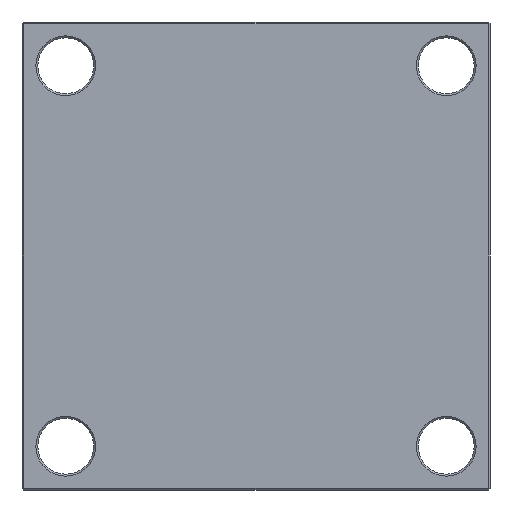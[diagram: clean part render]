
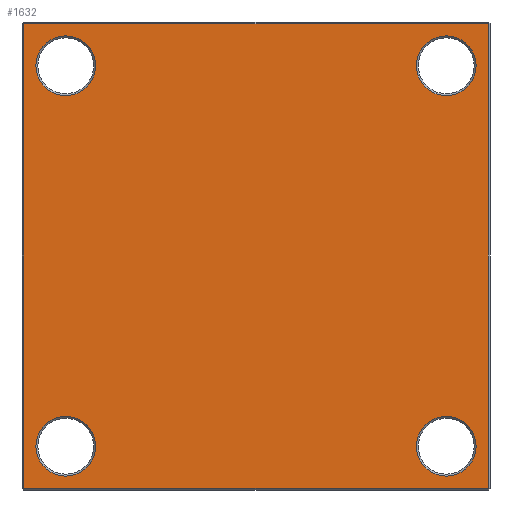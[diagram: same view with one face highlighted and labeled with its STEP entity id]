
A CAD part, front view. The second image highlights one B-rep face of the part: STEP entity #1632.
In plain terms, the highlighted planar face has unit normal (0, -1, 0).
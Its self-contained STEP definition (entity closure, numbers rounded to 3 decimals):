
#34 = LINE ( 'NONE', #657, #936 ) ;
#42 = EDGE_LOOP ( 'NONE', ( #1930, #742, #296, #948 ) ) ;
#55 = DIRECTION ( 'NONE',  ( 0., 0., 1. ) ) ;
#56 = CARTESIAN_POINT ( 'NONE',  ( 100., 0., 115.7 ) ) ;
#89 = EDGE_CURVE ( 'NONE', #1412, #629, #798, .T. ) ;
#105 = CARTESIAN_POINT ( 'NONE',  ( 122., 0., 0. ) ) ;
#106 = AXIS2_PLACEMENT_3D ( 'NONE', #1059, #1169, #1205 ) ;
#127 = DIRECTION ( 'NONE',  ( 0., 0., 1. ) ) ;
#145 = AXIS2_PLACEMENT_3D ( 'NONE', #1839, #1867, #55 ) ;
#180 = CARTESIAN_POINT ( 'NONE',  ( -100., 0., -115.7 ) ) ;
#182 = CARTESIAN_POINT ( 'NONE',  ( 100., 0., -100. ) ) ;
#194 = DIRECTION ( 'NONE',  ( 0., 1., 0. ) ) ;
#200 = DIRECTION ( 'NONE',  ( 0., 0., 1. ) ) ;
#209 = FACE_OUTER_BOUND ( 'NONE', #42, .T. ) ;
#229 = AXIS2_PLACEMENT_3D ( 'NONE', #182, #194, #200 ) ;
#232 = CIRCLE ( 'NONE', #106, 15.7 ) ;
#260 = DIRECTION ( 'NONE',  ( 0., 1., 0. ) ) ;
#289 = AXIS2_PLACEMENT_3D ( 'NONE', #319, #636, #807 ) ;
#296 = ORIENTED_EDGE ( 'NONE', *, *, #1812, .T. ) ;
#319 = CARTESIAN_POINT ( 'NONE',  ( -100., 0., 100. ) ) ;
#389 = AXIS2_PLACEMENT_3D ( 'NONE', #582, #567, #561 ) ;
#421 = CARTESIAN_POINT ( 'NONE',  ( -122., 0., 122. ) ) ;
#430 = DIRECTION ( 'NONE',  ( 0., 0., 1. ) ) ;
#438 = VECTOR ( 'NONE', #1401, 1000. ) ;
#455 = ORIENTED_EDGE ( 'NONE', *, *, #1175, .T. ) ;
#479 = ORIENTED_EDGE ( 'NONE', *, *, #511, .T. ) ;
#483 = DIRECTION ( 'NONE',  ( 0., 1., 0. ) ) ;
#511 = EDGE_CURVE ( 'NONE', #1960, #1674, #1627, .T. ) ;
#516 = CARTESIAN_POINT ( 'NONE',  ( 100., 0., 100. ) ) ;
#517 = CARTESIAN_POINT ( 'NONE',  ( 122., 0., 122. ) ) ;
#529 = LINE ( 'NONE', #955, #580 ) ;
#537 = VERTEX_POINT ( 'NONE', #739 ) ;
#558 = VERTEX_POINT ( 'NONE', #421 ) ;
#561 = DIRECTION ( 'NONE',  ( 0., 0., 1. ) ) ;
#567 = DIRECTION ( 'NONE',  ( 0., 1., 0. ) ) ;
#572 = VERTEX_POINT ( 'NONE', #517 ) ;
#580 = VECTOR ( 'NONE', #676, 1000. ) ;
#582 = CARTESIAN_POINT ( 'NONE',  ( -100., 0., 100. ) ) ;
#598 = VERTEX_POINT ( 'NONE', #180 ) ;
#605 = DIRECTION ( 'NONE',  ( 0., 0., 1. ) ) ;
#617 = CIRCLE ( 'NONE', #289, 15.7 ) ;
#626 = FACE_BOUND ( 'NONE', #2075, .T. ) ;
#629 = VERTEX_POINT ( 'NONE', #56 ) ;
#632 = DIRECTION ( 'NONE',  ( 0., 1., 0. ) ) ;
#636 = DIRECTION ( 'NONE',  ( 0., 1., 0. ) ) ;
#657 = CARTESIAN_POINT ( 'NONE',  ( -122., 0., 0. ) ) ;
#668 = DIRECTION ( 'NONE',  ( 0., 0., -1. ) ) ;
#676 = DIRECTION ( 'NONE',  ( 1., 0., 0. ) ) ;
#685 = ORIENTED_EDGE ( 'NONE', *, *, #863, .T. ) ;
#709 = CARTESIAN_POINT ( 'NONE',  ( -100., 0., -100. ) ) ;
#739 = CARTESIAN_POINT ( 'NONE',  ( 100., 0., -115.7 ) ) ;
#742 = ORIENTED_EDGE ( 'NONE', *, *, #1695, .T. ) ;
#798 = CIRCLE ( 'NONE', #1206, 15.7 ) ;
#807 = DIRECTION ( 'NONE',  ( 0., 0., 1. ) ) ;
#842 = EDGE_CURVE ( 'NONE', #2003, #598, #2119, .T. ) ;
#853 = CIRCLE ( 'NONE', #145, 15.7 ) ;
#863 = EDGE_CURVE ( 'NONE', #537, #2176, #2062, .T. ) ;
#870 = CARTESIAN_POINT ( 'NONE',  ( -100., 0., 115.7 ) ) ;
#907 = AXIS2_PLACEMENT_3D ( 'NONE', #516, #483, #605 ) ;
#936 = VECTOR ( 'NONE', #668, 1000. ) ;
#948 = ORIENTED_EDGE ( 'NONE', *, *, #1934, .T. ) ;
#955 = CARTESIAN_POINT ( 'NONE',  ( 0., 0., -122. ) ) ;
#959 = VERTEX_POINT ( 'NONE', #1201 ) ;
#985 = EDGE_CURVE ( 'NONE', #2176, #537, #853, .T. ) ;
#993 = ORIENTED_EDGE ( 'NONE', *, *, #1409, .T. ) ;
#1045 = CARTESIAN_POINT ( 'NONE',  ( 0., 0., 0. ) ) ;
#1056 = ORIENTED_EDGE ( 'NONE', *, *, #89, .T. ) ;
#1057 = PLANE ( 'NONE',  #1494 ) ;
#1059 = CARTESIAN_POINT ( 'NONE',  ( -100., 0., -100. ) ) ;
#1060 = FACE_BOUND ( 'NONE', #1571, .T. ) ;
#1109 = CARTESIAN_POINT ( 'NONE',  ( 122., 0., -122. ) ) ;
#1116 = FACE_BOUND ( 'NONE', #1754, .T. ) ;
#1151 = AXIS2_PLACEMENT_3D ( 'NONE', #709, #632, #127 ) ;
#1169 = DIRECTION ( 'NONE',  ( 0., 1., 0. ) ) ;
#1175 = EDGE_CURVE ( 'NONE', #629, #1412, #1851, .T. ) ;
#1201 = CARTESIAN_POINT ( 'NONE',  ( -122., 0., -122. ) ) ;
#1205 = DIRECTION ( 'NONE',  ( 0., 0., 1. ) ) ;
#1206 = AXIS2_PLACEMENT_3D ( 'NONE', #1682, #1668, #1727 ) ;
#1252 = ORIENTED_EDGE ( 'NONE', *, *, #842, .T. ) ;
#1264 = CARTESIAN_POINT ( 'NONE',  ( 0., 0., 122. ) ) ;
#1308 = LINE ( 'NONE', #1264, #438 ) ;
#1401 = DIRECTION ( 'NONE',  ( -1., 0., 0. ) ) ;
#1409 = EDGE_CURVE ( 'NONE', #1674, #1960, #617, .T. ) ;
#1412 = VERTEX_POINT ( 'NONE', #2016 ) ;
#1423 = DIRECTION ( 'NONE',  ( 0., 0., 1. ) ) ;
#1443 = VERTEX_POINT ( 'NONE', #1109 ) ;
#1494 = AXIS2_PLACEMENT_3D ( 'NONE', #1045, #260, #1423 ) ;
#1537 = EDGE_CURVE ( 'NONE', #1443, #572, #2015, .T. ) ;
#1551 = VECTOR ( 'NONE', #430, 1000. ) ;
#1571 = EDGE_LOOP ( 'NONE', ( #1056, #455 ) ) ;
#1588 = CARTESIAN_POINT ( 'NONE',  ( 100., 0., -84.3 ) ) ;
#1596 = ORIENTED_EDGE ( 'NONE', *, *, #985, .T. ) ;
#1627 = CIRCLE ( 'NONE', #389, 15.7 ) ;
#1632 = ADVANCED_FACE ( 'NONE', ( #2000, #1116, #1060, #626, #209 ), #1057, .F. ) ;
#1638 = EDGE_LOOP ( 'NONE', ( #1729, #1252 ) ) ;
#1668 = DIRECTION ( 'NONE',  ( 0., 1., 0. ) ) ;
#1674 = VERTEX_POINT ( 'NONE', #870 ) ;
#1682 = CARTESIAN_POINT ( 'NONE',  ( 100., 0., 100. ) ) ;
#1695 = EDGE_CURVE ( 'NONE', #572, #558, #1308, .T. ) ;
#1727 = DIRECTION ( 'NONE',  ( 0., 0., 1. ) ) ;
#1729 = ORIENTED_EDGE ( 'NONE', *, *, #2049, .T. ) ;
#1754 = EDGE_LOOP ( 'NONE', ( #685, #1596 ) ) ;
#1812 = EDGE_CURVE ( 'NONE', #558, #959, #34, .T. ) ;
#1839 = CARTESIAN_POINT ( 'NONE',  ( 100., 0., -100. ) ) ;
#1851 = CIRCLE ( 'NONE', #907, 15.7 ) ;
#1867 = DIRECTION ( 'NONE',  ( 0., 1., 0. ) ) ;
#1890 = CARTESIAN_POINT ( 'NONE',  ( -100., 0., -84.3 ) ) ;
#1922 = CARTESIAN_POINT ( 'NONE',  ( -100., 0., 84.3 ) ) ;
#1930 = ORIENTED_EDGE ( 'NONE', *, *, #1537, .T. ) ;
#1934 = EDGE_CURVE ( 'NONE', #959, #1443, #529, .T. ) ;
#1960 = VERTEX_POINT ( 'NONE', #1922 ) ;
#2000 = FACE_BOUND ( 'NONE', #1638, .T. ) ;
#2003 = VERTEX_POINT ( 'NONE', #1890 ) ;
#2015 = LINE ( 'NONE', #105, #1551 ) ;
#2016 = CARTESIAN_POINT ( 'NONE',  ( 100., 0., 84.3 ) ) ;
#2049 = EDGE_CURVE ( 'NONE', #598, #2003, #232, .T. ) ;
#2062 = CIRCLE ( 'NONE', #229, 15.7 ) ;
#2075 = EDGE_LOOP ( 'NONE', ( #479, #993 ) ) ;
#2119 = CIRCLE ( 'NONE', #1151, 15.7 ) ;
#2176 = VERTEX_POINT ( 'NONE', #1588 ) ;
